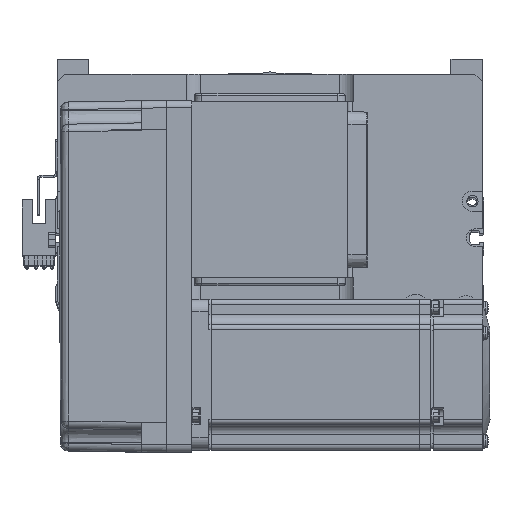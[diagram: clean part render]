
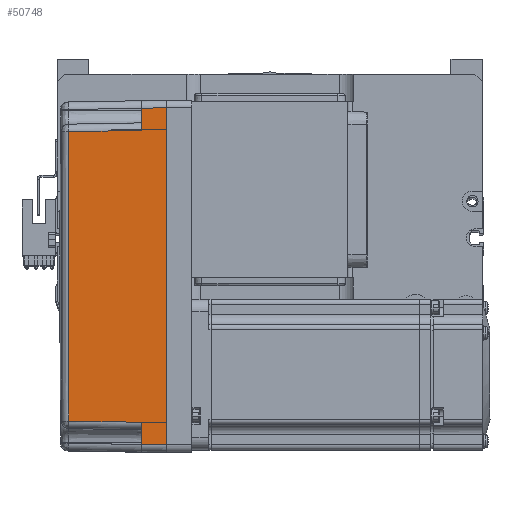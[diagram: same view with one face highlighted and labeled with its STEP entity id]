
A CAD part, top view. The second image highlights one B-rep face of the part: STEP entity #50748.
In plain terms, the highlighted planar face has unit normal (-0.018, 0, 1) as drawn and (0, -1, 0.017) by its records, which use the part's own axes.
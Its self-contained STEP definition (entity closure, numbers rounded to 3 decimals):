
#307 = FACE_OUTER_BOUND ( 'NONE', #27412, .T. ) ;
#376 = VERTEX_POINT ( 'NONE', #11622 ) ;
#648 = CARTESIAN_POINT ( 'NONE',  ( 67., -36., 0. ) ) ;
#1074 = LINE ( 'NONE', #49920, #44313 ) ;
#1359 = DIRECTION ( 'NONE',  ( -0.017, -0.017, -1. ) ) ;
#1819 = CARTESIAN_POINT ( 'NONE',  ( 58., -35.825, 10. ) ) ;
#6058 = VERTEX_POINT ( 'NONE', #15426 ) ;
#6868 = CARTESIAN_POINT ( 'NONE',  ( -66.826, -35.825, 10. ) ) ;
#9885 = CARTESIAN_POINT ( 'NONE',  ( -57.495, -35.32, 38.985 ) ) ;
#11254 = LINE ( 'NONE', #648, #39209 ) ;
#11622 = CARTESIAN_POINT ( 'NONE',  ( 66.826, -35.825, 10. ) ) ;
#13092 = DIRECTION ( 'NONE',  ( 0., -0.017, -1. ) ) ;
#14452 = CARTESIAN_POINT ( 'NONE',  ( 58., -35.825, 10. ) ) ;
#15374 = VERTEX_POINT ( 'NONE', #37564 ) ;
#15426 = CARTESIAN_POINT ( 'NONE',  ( -57.495, -35.32, 38.985 ) ) ;
#19388 = DIRECTION ( 'NONE',  ( -0.017, 0.017, 1. ) ) ;
#19775 = CARTESIAN_POINT ( 'NONE',  ( -19.165, -35.316, 39.181 ) ) ;
#19915 = VERTEX_POINT ( 'NONE', #6868 ) ;
#20594 = B_SPLINE_CURVE_WITH_KNOTS ( 'NONE', 3,
 ( #48190, #47762, #19775, #24723 ),
 .UNSPECIFIED., .F., .F.,
 ( 4, 4 ),
 ( 0., 1. ),
 .UNSPECIFIED. ) ;
#20822 = EDGE_CURVE ( 'NONE', #22352, #19915, #36228, .T. ) ;
#21077 = VECTOR ( 'NONE', #32644, 1000. ) ;
#21712 = ORIENTED_EDGE ( 'NONE', *, *, #50569, .F. ) ;
#21747 = DIRECTION ( 'NONE',  ( -1., 0., 0. ) ) ;
#22352 = VERTEX_POINT ( 'NONE', #25652 ) ;
#22448 = EDGE_CURVE ( 'NONE', #53194, #6058, #20594, .T. ) ;
#23658 = VECTOR ( 'NONE', #38594, 1000. ) ;
#23771 = CARTESIAN_POINT ( 'NONE',  ( 70., -35.825, 10. ) ) ;
#24366 = VECTOR ( 'NONE', #38442, 1000. ) ;
#24723 = CARTESIAN_POINT ( 'NONE',  ( -57.495, -35.32, 38.985 ) ) ;
#25652 = CARTESIAN_POINT ( 'NONE',  ( -58., -35.825, 10. ) ) ;
#27328 = VERTEX_POINT ( 'NONE', #58974 ) ;
#27412 = EDGE_LOOP ( 'NONE', ( #60058, #30585, #38113, #31060, #37805, #31655, #31408, #21712 ) ) ;
#27693 = CARTESIAN_POINT ( 'NONE',  ( -66.959, -35.958, 2.39 ) ) ;
#28521 = LINE ( 'NONE', #9885, #58614 ) ;
#30585 = ORIENTED_EDGE ( 'NONE', *, *, #42767, .T. ) ;
#31060 = ORIENTED_EDGE ( 'NONE', *, *, #22448, .T. ) ;
#31408 = ORIENTED_EDGE ( 'NONE', *, *, #43408, .F. ) ;
#31655 = ORIENTED_EDGE ( 'NONE', *, *, #20822, .T. ) ;
#32644 = DIRECTION ( 'NONE',  ( 0.017, 0.017, 1. ) ) ;
#35106 = LINE ( 'NONE', #14452, #54202 ) ;
#36228 = LINE ( 'NONE', #23771, #23658 ) ;
#36299 = AXIS2_PLACEMENT_3D ( 'NONE', #36574, #60690, #13092 ) ;
#36574 = CARTESIAN_POINT ( 'NONE',  ( 70., -36., 0. ) ) ;
#37564 = CARTESIAN_POINT ( 'NONE',  ( 67., -36., 0. ) ) ;
#37805 = ORIENTED_EDGE ( 'NONE', *, *, #47820, .T. ) ;
#38113 = ORIENTED_EDGE ( 'NONE', *, *, #42275, .T. ) ;
#38442 = DIRECTION ( 'NONE',  ( -1., 0., 0. ) ) ;
#38594 = DIRECTION ( 'NONE',  ( -1., 0., 0. ) ) ;
#39209 = VECTOR ( 'NONE', #51336, 1000. ) ;
#42275 = EDGE_CURVE ( 'NONE', #45857, #53194, #35106, .T. ) ;
#42767 = EDGE_CURVE ( 'NONE', #376, #45857, #44984, .T. ) ;
#43014 = CARTESIAN_POINT ( 'NONE',  ( 57.495, -35.32, 38.985 ) ) ;
#43408 = EDGE_CURVE ( 'NONE', #27328, #19915, #59235, .T. ) ;
#44313 = VECTOR ( 'NONE', #21747, 1000. ) ;
#44984 = LINE ( 'NONE', #56497, #24366 ) ;
#45857 = VERTEX_POINT ( 'NONE', #1819 ) ;
#47762 = CARTESIAN_POINT ( 'NONE',  ( 19.165, -35.316, 39.181 ) ) ;
#47820 = EDGE_CURVE ( 'NONE', #6058, #22352, #28521, .T. ) ;
#48190 = CARTESIAN_POINT ( 'NONE',  ( 57.495, -35.32, 38.985 ) ) ;
#49920 = CARTESIAN_POINT ( 'NONE',  ( 0., -36., 0. ) ) ;
#50569 = EDGE_CURVE ( 'NONE', #15374, #27328, #1074, .T. ) ;
#50733 = PLANE ( 'NONE',  #36299 ) ;
#50748 = ADVANCED_FACE ( 'NONE', ( #307 ), #50733, .T. ) ;
#51336 = DIRECTION ( 'NONE',  ( -0.017, 0.017, 1. ) ) ;
#52667 = EDGE_CURVE ( 'NONE', #15374, #376, #11254, .T. ) ;
#53194 = VERTEX_POINT ( 'NONE', #43014 ) ;
#54202 = VECTOR ( 'NONE', #19388, 1000. ) ;
#56497 = CARTESIAN_POINT ( 'NONE',  ( 70., -35.825, 10. ) ) ;
#58614 = VECTOR ( 'NONE', #1359, 1000. ) ;
#58974 = CARTESIAN_POINT ( 'NONE',  ( -67., -36., 0. ) ) ;
#59235 = LINE ( 'NONE', #27693, #21077 ) ;
#60058 = ORIENTED_EDGE ( 'NONE', *, *, #52667, .T. ) ;
#60690 = DIRECTION ( 'NONE',  ( 0., -1., 0.017 ) ) ;
